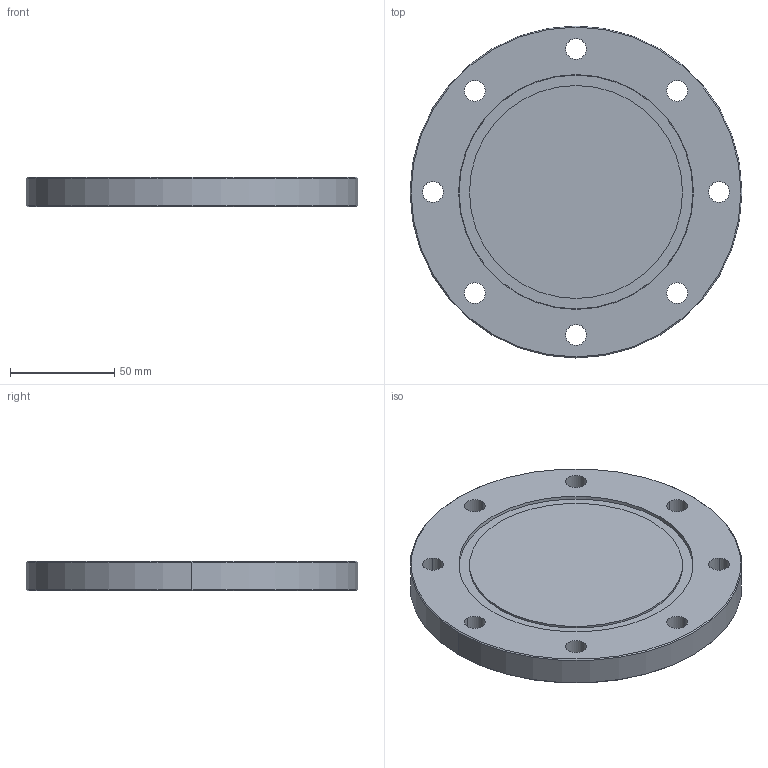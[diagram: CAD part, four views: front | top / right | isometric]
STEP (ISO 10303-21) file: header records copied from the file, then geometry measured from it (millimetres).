
FILE_DESCRIPTION (( 'STEP AP203' ), '1' );
FILE_NAME ('3D_R712_DN104_168071580.STEP', '2024-08-08T11:42:08', ( '' ), ( '' ), 'SwSTEP 2.0', 'SolidWorks 2024', '' );
FILE_SCHEMA (( 'CONFIG_CONTROL_DESIGN' ));
Length unit declared in the file: millimetre
Products named in the file (1): 3D_R712_DN104_168071580
Bounding box: 159 x 159 x 14 mm (x, y, z)
Volume: 262567.5 mm3; surface area: 49441 mm2
Topology: 1 solids, 1 shells, 30 faces, 74 edges, 48 vertices
Faces by surface type: cylinder 20, cone 6, plane 4
Entity records: 1023 total; most frequent: DIRECTION 184, CARTESIAN_POINT 153, ORIENTED_EDGE 148, AXIS2_PLACEMENT_3D 79, EDGE_CURVE 74, EDGE_LOOP 48, VERTEX_POINT 48, CIRCLE 48
